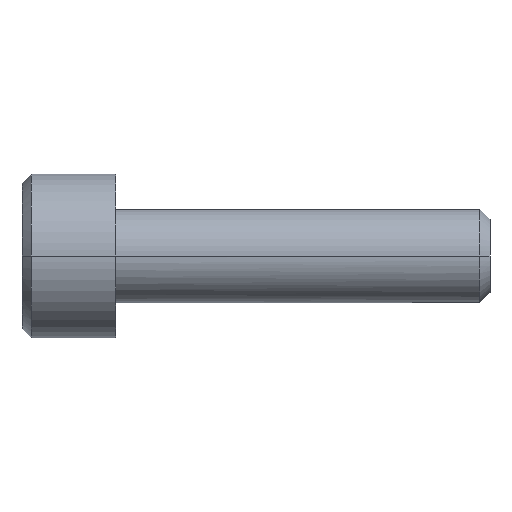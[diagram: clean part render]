
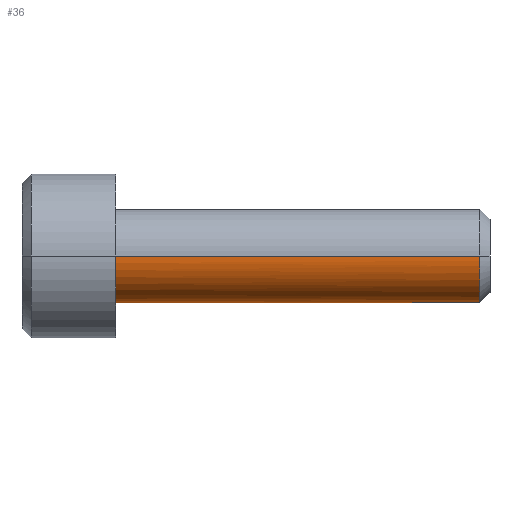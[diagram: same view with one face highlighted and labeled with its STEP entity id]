
A CAD part, front view. The second image highlights one B-rep face of the part: STEP entity #36.
In plain terms, the highlighted free-form (B-spline) face has degree [2, 1] with [9, 2] control points.
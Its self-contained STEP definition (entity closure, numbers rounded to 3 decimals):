
#36=ADVANCED_FACE('',(#61),#755,.T.);
#61=FACE_OUTER_BOUND('',#86,.T.);
#86=EDGE_LOOP('',(#119,#120,#121,#122));
#119=ORIENTED_EDGE('',*,*,#532,.T.);
#120=ORIENTED_EDGE('',*,*,#533,.T.);
#121=ORIENTED_EDGE('',*,*,#534,.T.);
#122=ORIENTED_EDGE('',*,*,#535,.T.);
#222=(
BOUNDED_CURVE()
B_SPLINE_CURVE(2,(#1121,#1122,#1123,#1124,#1125),.UNSPECIFIED.,.F.,.F.)
B_SPLINE_CURVE_WITH_KNOTS((3,2,3),(0.,3.142,6.283),
 .UNSPECIFIED.)
CURVE()
GEOMETRIC_REPRESENTATION_ITEM()
RATIONAL_B_SPLINE_CURVE((1.,0.707,1.,0.707,1.))
REPRESENTATION_ITEM('')
);
#223=(
BOUNDED_CURVE()
B_SPLINE_CURVE(2,(#1132,#1133,#1134,#1135,#1136),.UNSPECIFIED.,.F.,.F.)
B_SPLINE_CURVE_WITH_KNOTS((3,2,3),(-6.283,-3.142,0.),
 .UNSPECIFIED.)
CURVE()
GEOMETRIC_REPRESENTATION_ITEM()
RATIONAL_B_SPLINE_CURVE((1.,0.707,1.,0.707,1.))
REPRESENTATION_ITEM('')
);
#250=(
BOUNDED_CURVE()
B_SPLINE_CURVE(2,(#1425,#1426,#1427,#1428,#1429),.UNSPECIFIED.,.F.,.F.)
B_SPLINE_CURVE_WITH_KNOTS((3,2,3),(-6.283,-3.142,0.),
 .UNSPECIFIED.)
CURVE()
GEOMETRIC_REPRESENTATION_ITEM()
RATIONAL_B_SPLINE_CURVE((1.,0.707,1.,0.707,1.))
REPRESENTATION_ITEM('')
);
#263=PCURVE('',#755,#371);
#264=PCURVE('',#755,#372);
#265=PCURVE('',#755,#373);
#266=PCURVE('',#755,#374);
#270=PCURVE('',#756,#378);
#339=PCURVE('',#760,#447);
#341=PCURVE('',#760,#449);
#346=PCURVE('',#751,#454);
#371=DEFINITIONAL_REPRESENTATION('',(#592),#1481);
#372=DEFINITIONAL_REPRESENTATION('',(#593),#1481);
#373=DEFINITIONAL_REPRESENTATION('',(#595),#1481);
#374=DEFINITIONAL_REPRESENTATION('',(#596),#1481);
#378=DEFINITIONAL_REPRESENTATION('',(#602),#1481);
#447=DEFINITIONAL_REPRESENTATION('',(#687),#1481);
#449=DEFINITIONAL_REPRESENTATION('',(#689),#1481);
#454=DEFINITIONAL_REPRESENTATION('',(#250),#1481);
#478=SURFACE_CURVE('',#591,(#263,#339),.PCURVE_S1.);
#479=SURFACE_CURVE('',#222,(#264,#270),.PCURVE_S1.);
#480=SURFACE_CURVE('',#594,(#265,#341),.PCURVE_S1.);
#481=SURFACE_CURVE('',#223,(#266,#346),.PCURVE_S1.);
#532=EDGE_CURVE('',#711,#712,#478,.T.);
#533=EDGE_CURVE('',#712,#713,#479,.T.);
#534=EDGE_CURVE('',#713,#714,#480,.T.);
#535=EDGE_CURVE('',#714,#711,#481,.T.);
#591=B_SPLINE_CURVE_WITH_KNOTS('',1,(#1117,#1118),.UNSPECIFIED.,.F.,.F.,
(2,2),(-15.571,0.),.UNSPECIFIED.);
#592=B_SPLINE_CURVE_WITH_KNOTS('',1,(#1119,#1120),.UNSPECIFIED.,.F.,.F.,
(2,2),(-15.571,0.),.UNSPECIFIED.);
#593=B_SPLINE_CURVE_WITH_KNOTS('',1,(#1126,#1127),.UNSPECIFIED.,.F.,.F.,
(2,2),(0.,6.283),.UNSPECIFIED.);
#594=B_SPLINE_CURVE_WITH_KNOTS('',1,(#1128,#1129),.UNSPECIFIED.,.F.,.F.,
(2,2),(-15.571,0.),.UNSPECIFIED.);
#595=B_SPLINE_CURVE_WITH_KNOTS('',1,(#1130,#1131),.UNSPECIFIED.,.F.,.F.,
(2,2),(-15.571,0.),.UNSPECIFIED.);
#596=B_SPLINE_CURVE_WITH_KNOTS('',1,(#1137,#1138),.UNSPECIFIED.,.F.,.F.,
(2,2),(-6.283,0.),.UNSPECIFIED.);
#602=B_SPLINE_CURVE_WITH_KNOTS('',1,(#1154,#1155),.UNSPECIFIED.,.F.,.F.,
(2,2),(0.,6.283),.UNSPECIFIED.);
#687=B_SPLINE_CURVE_WITH_KNOTS('',1,(#1392,#1393),.UNSPECIFIED.,.F.,.F.,
(2,2),(-15.571,0.),.UNSPECIFIED.);
#689=B_SPLINE_CURVE_WITH_KNOTS('',1,(#1401,#1402),.UNSPECIFIED.,.F.,.F.,
(2,2),(-15.571,0.),.UNSPECIFIED.);
#711=VERTEX_POINT('',#1051);
#712=VERTEX_POINT('',#1052);
#713=VERTEX_POINT('',#1053);
#714=VERTEX_POINT('',#1054);
#751=PLANE('',#818);
#755=(
BOUNDED_SURFACE()
B_SPLINE_SURFACE(2,1,((#886,#887),(#888,#889),(#890,#891),(#892,#893),(#894,
#895),(#896,#897),(#898,#899),(#900,#901),(#902,#903)),.UNSPECIFIED.,.T.,
 .F.,.F.)
B_SPLINE_SURFACE_WITH_KNOTS((3,2,2,2,3),(2,2),(0.,1.571,3.142,
4.712,6.283),(0.,18.687),.UNSPECIFIED.)
GEOMETRIC_REPRESENTATION_ITEM()
RATIONAL_B_SPLINE_SURFACE(((1.,1.),(0.707,0.707),
(1.,1.),(0.707,0.707),(1.,1.),(0.707,
0.707),(1.,1.),(0.707,0.707),(1.,1.)))
REPRESENTATION_ITEM('')
SURFACE()
);
#756=(
BOUNDED_SURFACE()
B_SPLINE_SURFACE(2,1,((#904,#905),(#906,#907),(#908,#909),(#910,#911),(#912,
#913),(#914,#915),(#916,#917),(#918,#919),(#920,#921)),.UNSPECIFIED.,.T.,
 .F.,.F.)
B_SPLINE_SURFACE_WITH_KNOTS((3,2,2,2,3),(2,2),(0.,1.571,3.142,
4.712,6.283),(0.,3.113),.UNSPECIFIED.)
GEOMETRIC_REPRESENTATION_ITEM()
RATIONAL_B_SPLINE_SURFACE(((1.,1.),(0.707,0.707),
(1.,1.),(0.707,0.707),(1.,1.),(0.707,
0.707),(1.,1.),(0.707,0.707),(1.,1.)))
REPRESENTATION_ITEM('')
SURFACE()
);
#760=(
BOUNDED_SURFACE()
B_SPLINE_SURFACE(2,1,((#989,#990),(#991,#992),(#993,#994),(#995,#996),(#997,
#998),(#999,#1000),(#1001,#1002),(#1003,#1004),(#1005,#1006)),
 .UNSPECIFIED.,.T.,.F.,.F.)
B_SPLINE_SURFACE_WITH_KNOTS((3,2,2,2,3),(2,2),(0.,1.571,3.142,
4.712,6.283),(0.,18.687),.UNSPECIFIED.)
GEOMETRIC_REPRESENTATION_ITEM()
RATIONAL_B_SPLINE_SURFACE(((1.,1.),(0.707,0.707),
(1.,1.),(0.707,0.707),(1.,1.),(0.707,
0.707),(1.,1.),(0.707,0.707),(1.,1.)))
REPRESENTATION_ITEM('')
SURFACE()
);
#818=AXIS2_PLACEMENT_3D('',#1007,#840,$);
#840=DIRECTION('',(1.,0.,0.));
#886=CARTESIAN_POINT('',(-1.558,-2.,4.872));
#887=CARTESIAN_POINT('',(17.129,-2.,4.872));
#888=CARTESIAN_POINT('',(-1.558,-4.,4.872));
#889=CARTESIAN_POINT('',(17.129,-4.,4.872));
#890=CARTESIAN_POINT('',(-1.558,-4.,2.872));
#891=CARTESIAN_POINT('',(17.129,-4.,2.872));
#892=CARTESIAN_POINT('',(-1.558,-4.,0.872));
#893=CARTESIAN_POINT('',(17.129,-4.,0.872));
#894=CARTESIAN_POINT('',(-1.558,-2.,0.872));
#895=CARTESIAN_POINT('',(17.129,-2.,0.872));
#896=CARTESIAN_POINT('',(-1.558,0.,0.872));
#897=CARTESIAN_POINT('',(17.129,0.,0.872));
#898=CARTESIAN_POINT('',(-1.558,0.,2.872));
#899=CARTESIAN_POINT('',(17.129,0.,2.872));
#900=CARTESIAN_POINT('',(-1.558,0.,4.872));
#901=CARTESIAN_POINT('',(17.129,0.,4.872));
#902=CARTESIAN_POINT('',(-1.558,-2.,4.872));
#903=CARTESIAN_POINT('',(17.129,-2.,4.872));
#904=CARTESIAN_POINT('',(17.571,-2.,2.872));
#905=CARTESIAN_POINT('',(15.369,-2.,5.073));
#906=CARTESIAN_POINT('',(17.571,-2.,2.872));
#907=CARTESIAN_POINT('',(15.369,0.201,5.073));
#908=CARTESIAN_POINT('',(17.571,-2.,2.872));
#909=CARTESIAN_POINT('',(15.369,0.201,2.872));
#910=CARTESIAN_POINT('',(17.571,-2.,2.872));
#911=CARTESIAN_POINT('',(15.369,0.201,0.671));
#912=CARTESIAN_POINT('',(17.571,-2.,2.872));
#913=CARTESIAN_POINT('',(15.369,-2.,0.671));
#914=CARTESIAN_POINT('',(17.571,-2.,2.872));
#915=CARTESIAN_POINT('',(15.369,-4.201,0.671));
#916=CARTESIAN_POINT('',(17.571,-2.,2.872));
#917=CARTESIAN_POINT('',(15.369,-4.201,2.872));
#918=CARTESIAN_POINT('',(17.571,-2.,2.872));
#919=CARTESIAN_POINT('',(15.369,-4.201,5.073));
#920=CARTESIAN_POINT('',(17.571,-2.,2.872));
#921=CARTESIAN_POINT('',(15.369,-2.,5.073));
#989=CARTESIAN_POINT('',(-1.558,-2.,0.872));
#990=CARTESIAN_POINT('',(17.129,-2.,0.872));
#991=CARTESIAN_POINT('',(-1.558,0.,0.872));
#992=CARTESIAN_POINT('',(17.129,0.,0.872));
#993=CARTESIAN_POINT('',(-1.558,0.,2.872));
#994=CARTESIAN_POINT('',(17.129,0.,2.872));
#995=CARTESIAN_POINT('',(-1.558,0.,4.872));
#996=CARTESIAN_POINT('',(17.129,0.,4.872));
#997=CARTESIAN_POINT('',(-1.558,-2.,4.872));
#998=CARTESIAN_POINT('',(17.129,-2.,4.872));
#999=CARTESIAN_POINT('',(-1.558,-4.,4.872));
#1000=CARTESIAN_POINT('',(17.129,-4.,4.872));
#1001=CARTESIAN_POINT('',(-1.558,-4.,2.872));
#1002=CARTESIAN_POINT('',(17.129,-4.,2.872));
#1003=CARTESIAN_POINT('',(-1.558,-4.,0.872));
#1004=CARTESIAN_POINT('',(17.129,-4.,0.872));
#1005=CARTESIAN_POINT('',(-1.558,-2.,0.872));
#1006=CARTESIAN_POINT('',(17.129,-2.,0.872));
#1007=CARTESIAN_POINT('',(0.,2.201,7.073));
#1051=CARTESIAN_POINT('',(0.,0.,2.872));
#1052=CARTESIAN_POINT('',(15.571,0.,2.872));
#1053=CARTESIAN_POINT('',(15.571,-4.,2.872));
#1054=CARTESIAN_POINT('',(0.,-4.,2.872));
#1117=CARTESIAN_POINT('',(0.,0.,2.872));
#1118=CARTESIAN_POINT('',(15.571,0.,2.872));
#1119=CARTESIAN_POINT('',(4.712,1.558));
#1120=CARTESIAN_POINT('',(4.712,17.129));
#1121=CARTESIAN_POINT('',(15.571,0.,2.872));
#1122=CARTESIAN_POINT('',(15.571,0.,0.872));
#1123=CARTESIAN_POINT('',(15.571,-2.,0.872));
#1124=CARTESIAN_POINT('',(15.571,-4.,0.872));
#1125=CARTESIAN_POINT('',(15.571,-4.,2.872));
#1126=CARTESIAN_POINT('',(4.712,17.129));
#1127=CARTESIAN_POINT('',(1.571,17.129));
#1128=CARTESIAN_POINT('',(15.571,-4.,2.872));
#1129=CARTESIAN_POINT('',(0.,-4.,2.872));
#1130=CARTESIAN_POINT('',(1.571,17.129));
#1131=CARTESIAN_POINT('',(1.571,1.558));
#1132=CARTESIAN_POINT('',(0.,-4.,2.872));
#1133=CARTESIAN_POINT('',(0.,-4.,0.872));
#1134=CARTESIAN_POINT('',(0.,-2.,0.872));
#1135=CARTESIAN_POINT('',(0.,0.,0.872));
#1136=CARTESIAN_POINT('',(0.,0.,2.872));
#1137=CARTESIAN_POINT('',(1.571,1.558));
#1138=CARTESIAN_POINT('',(4.712,1.558));
#1154=CARTESIAN_POINT('',(1.571,2.828));
#1155=CARTESIAN_POINT('',(4.712,2.828));
#1392=CARTESIAN_POINT('',(1.571,1.558));
#1393=CARTESIAN_POINT('',(1.571,17.129));
#1401=CARTESIAN_POINT('',(4.712,17.129));
#1402=CARTESIAN_POINT('',(4.712,1.558));
#1425=CARTESIAN_POINT('',(4.75,0.));
#1426=CARTESIAN_POINT('',(4.75,2.));
#1427=CARTESIAN_POINT('',(2.75,2.));
#1428=CARTESIAN_POINT('',(0.75,2.));
#1429=CARTESIAN_POINT('',(0.75,0.));
#1481=(
GEOMETRIC_REPRESENTATION_CONTEXT(2)
PARAMETRIC_REPRESENTATION_CONTEXT()
REPRESENTATION_CONTEXT('pspace','')
);
